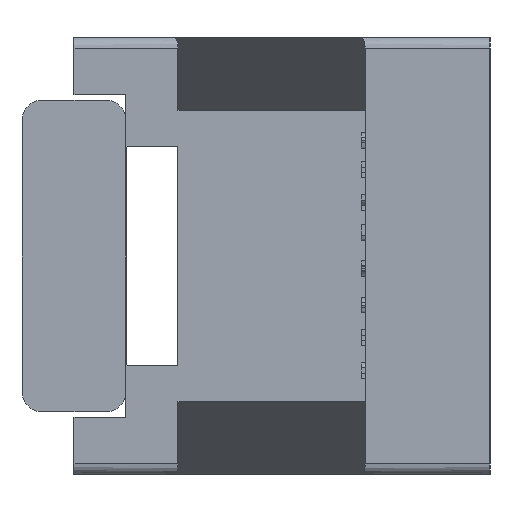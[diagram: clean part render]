
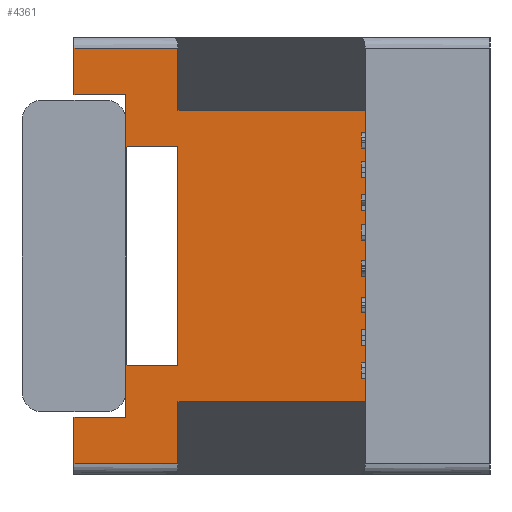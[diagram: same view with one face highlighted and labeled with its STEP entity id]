
A CAD part, left-side view. The second image highlights one B-rep face of the part: STEP entity #4361.
In plain terms, the highlighted planar face has unit normal (-1, 0, 0) as drawn and (0, 0, 1) by its records, which use the part's own axes.
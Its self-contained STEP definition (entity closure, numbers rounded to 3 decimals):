
#4 = CARTESIAN_POINT ( 'NONE',  ( -7.75, 2.5, 10.5 ) ) ;
#11 = VERTEX_POINT ( 'NONE', #590 ) ;
#64 = CARTESIAN_POINT ( 'NONE',  ( 10., -2.5, 10.5 ) ) ;
#83 = LINE ( 'NONE', #7182, #8288 ) ;
#88 = EDGE_CURVE ( 'NONE', #9997, #9315, #2276, .T. ) ;
#126 = CARTESIAN_POINT ( 'NONE',  ( -10., 2.5, 10.5 ) ) ;
#156 = LINE ( 'NONE', #10196, #7740 ) ;
#189 = VERTEX_POINT ( 'NONE', #4878 ) ;
#216 = ORIENTED_EDGE ( 'NONE', *, *, #4333, .F. ) ;
#230 = VECTOR ( 'NONE', #8777, 1000. ) ;
#287 = CARTESIAN_POINT ( 'NONE',  ( -5.25, 0., 10.5 ) ) ;
#300 = CARTESIAN_POINT ( 'NONE',  ( 5.25, 0., 10.5 ) ) ;
#398 = VECTOR ( 'NONE', #7569, 1000. ) ;
#418 = VERTEX_POINT ( 'NONE', #300 ) ;
#454 = DIRECTION ( 'NONE',  ( 0., 1., 0. ) ) ;
#590 = CARTESIAN_POINT ( 'NONE',  ( 7.75, 2.5, 10.5 ) ) ;
#636 = EDGE_CURVE ( 'NONE', #3798, #7796, #8393, .T. ) ;
#651 = CARTESIAN_POINT ( 'NONE',  ( 7., -2.5, 10.5 ) ) ;
#862 = CARTESIAN_POINT ( 'NONE',  ( -10., -2.5, 10.5 ) ) ;
#945 = VERTEX_POINT ( 'NONE', #4228 ) ;
#981 = EDGE_CURVE ( 'NONE', #4566, #418, #1391, .T. ) ;
#995 = VERTEX_POINT ( 'NONE', #5974 ) ;
#1009 = VERTEX_POINT ( 'NONE', #2832 ) ;
#1070 = EDGE_CURVE ( 'NONE', #1009, #11, #8904, .T. ) ;
#1083 = EDGE_CURVE ( 'NONE', #418, #3272, #8642, .T. ) ;
#1177 = CARTESIAN_POINT ( 'NONE',  ( 10.5, 2.5, 10.5 ) ) ;
#1247 = CARTESIAN_POINT ( 'NONE',  ( 5.25, -2.5, 10.5 ) ) ;
#1337 = CARTESIAN_POINT ( 'NONE',  ( 10.5, 2.5, 10.5 ) ) ;
#1391 = LINE ( 'NONE', #1247, #9643 ) ;
#1425 = DIRECTION ( 'NONE',  ( 1., 0., 0. ) ) ;
#1510 = VECTOR ( 'NONE', #10101, 1000. ) ;
#1560 = ORIENTED_EDGE ( 'NONE', *, *, #1070, .T. ) ;
#1576 = CARTESIAN_POINT ( 'NONE',  ( 10.5, 2.5, 10.5 ) ) ;
#1593 = VECTOR ( 'NONE', #1796, 1000. ) ;
#1640 = EDGE_CURVE ( 'NONE', #3272, #11, #3378, .T. ) ;
#1775 = CARTESIAN_POINT ( 'NONE',  ( 5.25, -2.5, 10.5 ) ) ;
#1794 = AXIS2_PLACEMENT_3D ( 'NONE', #1337, #6924, #2156 ) ;
#1796 = DIRECTION ( 'NONE',  ( 1., 0., 0. ) ) ;
#1890 = LINE ( 'NONE', #6664, #5040 ) ;
#1968 = EDGE_CURVE ( 'NONE', #945, #4024, #6002, .T. ) ;
#2022 = VERTEX_POINT ( 'NONE', #6013 ) ;
#2038 = EDGE_CURVE ( 'NONE', #7796, #2469, #156, .T. ) ;
#2156 = DIRECTION ( 'NONE',  ( -1., 0., 0. ) ) ;
#2161 = EDGE_CURVE ( 'NONE', #2469, #189, #5252, .T. ) ;
#2276 = LINE ( 'NONE', #9555, #8161 ) ;
#2458 = EDGE_CURVE ( 'NONE', #945, #9315, #2719, .T. ) ;
#2469 = VERTEX_POINT ( 'NONE', #287 ) ;
#2619 = CARTESIAN_POINT ( 'NONE',  ( -7., -11.5, 10.5 ) ) ;
#2665 = ORIENTED_EDGE ( 'NONE', *, *, #2038, .F. ) ;
#2679 = VECTOR ( 'NONE', #4547, 1000. ) ;
#2719 = LINE ( 'NONE', #9136, #4488 ) ;
#2832 = CARTESIAN_POINT ( 'NONE',  ( 10., 2.5, 10.5 ) ) ;
#2848 = CARTESIAN_POINT ( 'NONE',  ( -7., -11.5, 10.5 ) ) ;
#2976 = EDGE_CURVE ( 'NONE', #995, #3455, #3218, .T. ) ;
#3019 = ORIENTED_EDGE ( 'NONE', *, *, #9382, .F. ) ;
#3027 = DIRECTION ( 'NONE',  ( 0., -1., 0. ) ) ;
#3055 = FACE_OUTER_BOUND ( 'NONE', #3275, .T. ) ;
#3203 = CARTESIAN_POINT ( 'NONE',  ( -5.25, 0., 10.5 ) ) ;
#3218 = LINE ( 'NONE', #126, #9093 ) ;
#3272 = VERTEX_POINT ( 'NONE', #6967 ) ;
#3275 = EDGE_LOOP ( 'NONE', ( #9992, #4898, #1560, #7610, #8936, #3989, #7751, #6928, #2665, #7433, #3453, #5794, #3019, #216, #5444, #8807 ) ) ;
#3369 = VECTOR ( 'NONE', #10015, 1000. ) ;
#3378 = LINE ( 'NONE', #6228, #1510 ) ;
#3397 = VECTOR ( 'NONE', #3027, 1000. ) ;
#3453 = ORIENTED_EDGE ( 'NONE', *, *, #7503, .T. ) ;
#3455 = VERTEX_POINT ( 'NONE', #862 ) ;
#3798 = VERTEX_POINT ( 'NONE', #5977 ) ;
#3989 = ORIENTED_EDGE ( 'NONE', *, *, #981, .F. ) ;
#3995 = DIRECTION ( 'NONE',  ( -1., 0., 0. ) ) ;
#4024 = VERTEX_POINT ( 'NONE', #2619 ) ;
#4228 = CARTESIAN_POINT ( 'NONE',  ( 7., -11.5, 10.5 ) ) ;
#4253 = DIRECTION ( 'NONE',  ( 0., 1., 0. ) ) ;
#4333 = EDGE_CURVE ( 'NONE', #4024, #2022, #8692, .T. ) ;
#4351 = DIRECTION ( 'NONE',  ( 0., 1., 0. ) ) ;
#4361 = ADVANCED_FACE ( 'NONE', ( #3055 ), #6127, .F. ) ;
#4469 = LINE ( 'NONE', #8323, #1593 ) ;
#4488 = VECTOR ( 'NONE', #4253, 1000. ) ;
#4547 = DIRECTION ( 'NONE',  ( 0., 1., 0. ) ) ;
#4566 = VERTEX_POINT ( 'NONE', #1775 ) ;
#4878 = CARTESIAN_POINT ( 'NONE',  ( -5.25, -2.5, 10.5 ) ) ;
#4898 = ORIENTED_EDGE ( 'NONE', *, *, #10274, .T. ) ;
#5040 = VECTOR ( 'NONE', #4351, 1000. ) ;
#5252 = LINE ( 'NONE', #3203, #7133 ) ;
#5444 = ORIENTED_EDGE ( 'NONE', *, *, #1968, .F. ) ;
#5591 = CARTESIAN_POINT ( 'NONE',  ( -7.75, 0., 10.5 ) ) ;
#5794 = ORIENTED_EDGE ( 'NONE', *, *, #2976, .T. ) ;
#5911 = CARTESIAN_POINT ( 'NONE',  ( 7., -11.5, 10.5 ) ) ;
#5974 = CARTESIAN_POINT ( 'NONE',  ( -10., 2.5, 10.5 ) ) ;
#5977 = CARTESIAN_POINT ( 'NONE',  ( -7.75, 2.5, 10.5 ) ) ;
#6002 = LINE ( 'NONE', #5911, #3369 ) ;
#6013 = CARTESIAN_POINT ( 'NONE',  ( -7., -2.5, 10.5 ) ) ;
#6127 = PLANE ( 'NONE',  #1794 ) ;
#6228 = CARTESIAN_POINT ( 'NONE',  ( 7.75, 0., 10.5 ) ) ;
#6395 = DIRECTION ( 'NONE',  ( 0., -1., 0. ) ) ;
#6478 = DIRECTION ( 'NONE',  ( -1., 0., 0. ) ) ;
#6487 = DIRECTION ( 'NONE',  ( 0., -1., 0. ) ) ;
#6664 = CARTESIAN_POINT ( 'NONE',  ( 10., 2.5, 10.5 ) ) ;
#6665 = EDGE_CURVE ( 'NONE', #189, #4566, #4469, .T. ) ;
#6924 = DIRECTION ( 'NONE',  ( 0., 0., -1. ) ) ;
#6928 = ORIENTED_EDGE ( 'NONE', *, *, #2161, .F. ) ;
#6967 = CARTESIAN_POINT ( 'NONE',  ( 7.75, 0., 10.5 ) ) ;
#7133 = VECTOR ( 'NONE', #6395, 1000. ) ;
#7182 = CARTESIAN_POINT ( 'NONE',  ( 10.5, -2.5, 10.5 ) ) ;
#7433 = ORIENTED_EDGE ( 'NONE', *, *, #636, .F. ) ;
#7503 = EDGE_CURVE ( 'NONE', #3798, #995, #8969, .T. ) ;
#7569 = DIRECTION ( 'NONE',  ( -1., 0., 0. ) ) ;
#7610 = ORIENTED_EDGE ( 'NONE', *, *, #1640, .F. ) ;
#7740 = VECTOR ( 'NONE', #1425, 1000. ) ;
#7751 = ORIENTED_EDGE ( 'NONE', *, *, #6665, .F. ) ;
#7796 = VERTEX_POINT ( 'NONE', #5591 ) ;
#8161 = VECTOR ( 'NONE', #6478, 1000. ) ;
#8288 = VECTOR ( 'NONE', #3995, 1000. ) ;
#8323 = CARTESIAN_POINT ( 'NONE',  ( -5.25, -2.5, 10.5 ) ) ;
#8393 = LINE ( 'NONE', #4, #3397 ) ;
#8404 = DIRECTION ( 'NONE',  ( 1., 0., 0. ) ) ;
#8642 = LINE ( 'NONE', #9177, #10267 ) ;
#8692 = LINE ( 'NONE', #2848, #2679 ) ;
#8777 = DIRECTION ( 'NONE',  ( -1., 0., 0. ) ) ;
#8807 = ORIENTED_EDGE ( 'NONE', *, *, #2458, .T. ) ;
#8904 = LINE ( 'NONE', #1177, #398 ) ;
#8936 = ORIENTED_EDGE ( 'NONE', *, *, #1083, .F. ) ;
#8969 = LINE ( 'NONE', #1576, #230 ) ;
#9093 = VECTOR ( 'NONE', #6487, 1000. ) ;
#9136 = CARTESIAN_POINT ( 'NONE',  ( 7., -11.5, 10.5 ) ) ;
#9177 = CARTESIAN_POINT ( 'NONE',  ( 5.25, 0., 10.5 ) ) ;
#9315 = VERTEX_POINT ( 'NONE', #651 ) ;
#9382 = EDGE_CURVE ( 'NONE', #2022, #3455, #83, .T. ) ;
#9555 = CARTESIAN_POINT ( 'NONE',  ( 10.5, -2.5, 10.5 ) ) ;
#9643 = VECTOR ( 'NONE', #454, 1000. ) ;
#9992 = ORIENTED_EDGE ( 'NONE', *, *, #88, .F. ) ;
#9997 = VERTEX_POINT ( 'NONE', #64 ) ;
#10015 = DIRECTION ( 'NONE',  ( -1., 0., 0. ) ) ;
#10101 = DIRECTION ( 'NONE',  ( 0., 1., 0. ) ) ;
#10196 = CARTESIAN_POINT ( 'NONE',  ( -7.75, 0., 10.5 ) ) ;
#10267 = VECTOR ( 'NONE', #8404, 1000. ) ;
#10274 = EDGE_CURVE ( 'NONE', #9997, #1009, #1890, .T. ) ;
